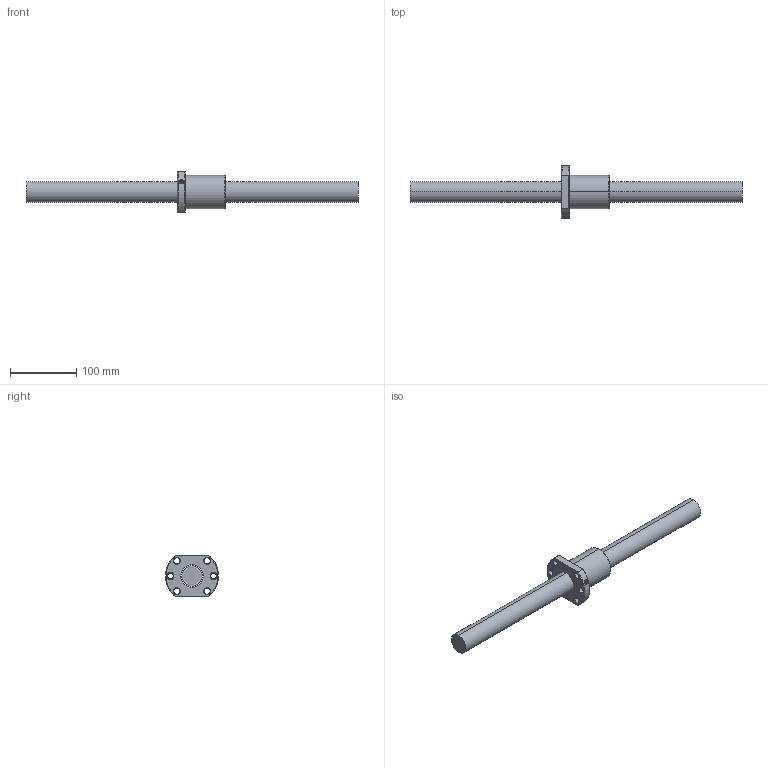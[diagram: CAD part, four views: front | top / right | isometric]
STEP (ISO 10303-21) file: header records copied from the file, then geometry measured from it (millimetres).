
FILE_DESCRIPTION (( 'STEP AP203' ), '1' );
FILE_NAME ('SFA3220-2.8.STEP', '2024-08-13T02:01:26', ( '' ), ( '' ), 'SwSTEP 2.0', 'SolidWorks 2022', '' );
FILE_SCHEMA (( 'CONFIG_CONTROL_DESIGN' ));
Length unit declared in the file: millimetre
Products named in the file (1): SFA3220-2.8
Bounding box: 500 x 79.74 x 62 mm (x, y, z)
Volume: 478517.6 mm3; surface area: 78379 mm2
Topology: 2 solids, 2 shells, 85 faces, 218 edges, 138 vertices
Faces by surface type: cylinder 35, cone 26, plane 12, bspline 6, torus 6
Entity records: 5546 total; most frequent: CARTESIAN_POINT 3467, ORIENTED_EDGE 436, DIRECTION 403, EDGE_CURVE 218, AXIS2_PLACEMENT_3D 164, VERTEX_POINT 138, EDGE_LOOP 102, ADVANCED_FACE 85
